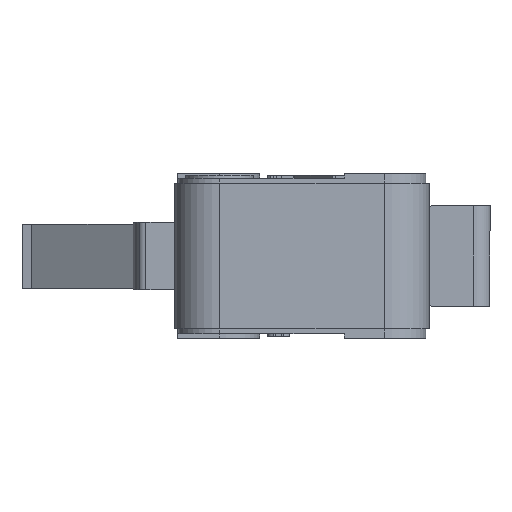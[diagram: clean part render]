
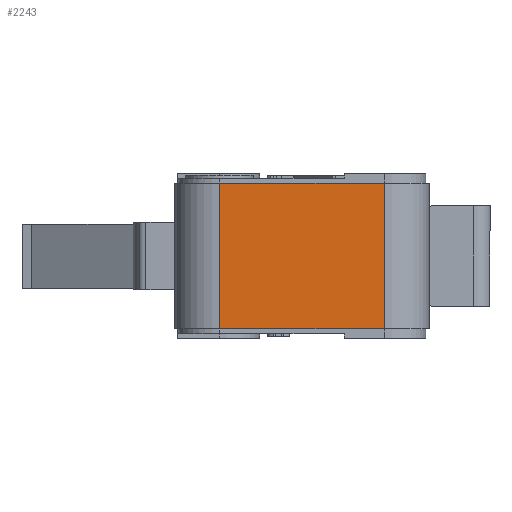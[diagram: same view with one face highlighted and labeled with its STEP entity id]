
A CAD part, left-side view. The second image highlights one B-rep face of the part: STEP entity #2243.
In plain terms, the highlighted planar face has unit normal (-1, 0, 0).
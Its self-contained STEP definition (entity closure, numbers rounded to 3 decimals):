
#2176=CARTESIAN_POINT('',(-13.9,5.15,-4.55));
#2177=VERTEX_POINT('',#2176);
#2178=CARTESIAN_POINT('',(-13.9,5.15,4.55));
#2179=VERTEX_POINT('',#2178);
#2180=CARTESIAN_POINT('',(-13.9,5.15,-4.55));
#2181=DIRECTION('',(0.0,0.0,1.0));
#2182=VECTOR('',#2181,9.1);
#2183=LINE('',#2180,#2182);
#2184=EDGE_CURVE('',#2177,#2179,#2183,.T.);
#2213=CARTESIAN_POINT('',(-13.9,-5.15,-4.55));
#2214=DIRECTION('',(-1.0,0.0,0.0));
#2215=DIRECTION('',(0.0,0.0,1.0));
#2216=AXIS2_PLACEMENT_3D('',#2213,#2214,#2215);
#2217=PLANE('',#2216);
#2218=CARTESIAN_POINT('',(-13.9,-5.15,4.55));
#2219=VERTEX_POINT('',#2218);
#2220=CARTESIAN_POINT('',(-13.9,-5.15,4.55));
#2221=DIRECTION('',(0.0,1.0,0.0));
#2222=VECTOR('',#2221,10.3);
#2223=LINE('',#2220,#2222);
#2224=EDGE_CURVE('',#2219,#2179,#2223,.T.);
#2225=ORIENTED_EDGE('',*,*,#2224,.T.);
#2226=ORIENTED_EDGE('',*,*,#2184,.F.);
#2227=CARTESIAN_POINT('',(-13.9,-5.15,-4.55));
#2228=VERTEX_POINT('',#2227);
#2229=CARTESIAN_POINT('',(-13.9,5.15,-4.55));
#2230=DIRECTION('',(0.0,-1.0,0.0));
#2231=VECTOR('',#2230,10.3);
#2232=LINE('',#2229,#2231);
#2233=EDGE_CURVE('',#2177,#2228,#2232,.T.);
#2234=ORIENTED_EDGE('',*,*,#2233,.T.);
#2235=CARTESIAN_POINT('',(-13.9,-5.15,-4.55));
#2236=DIRECTION('',(0.0,0.0,1.0));
#2237=VECTOR('',#2236,9.1);
#2238=LINE('',#2235,#2237);
#2239=EDGE_CURVE('',#2228,#2219,#2238,.T.);
#2240=ORIENTED_EDGE('',*,*,#2239,.T.);
#2241=EDGE_LOOP('',(#2225,#2226,#2234,#2240));
#2242=FACE_OUTER_BOUND('',#2241,.T.);
#2243=ADVANCED_FACE('',(#2242),#2217,.T.);
